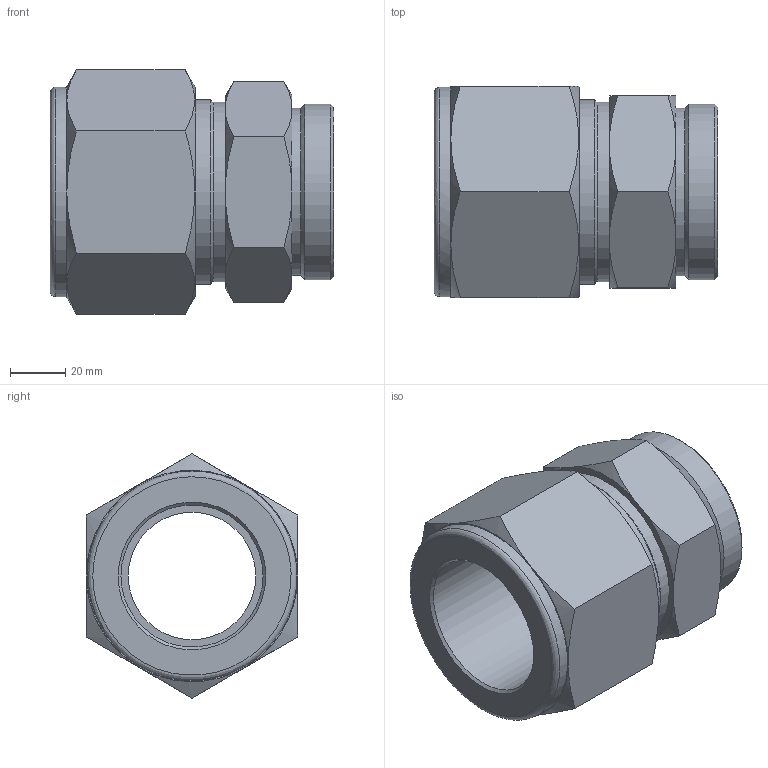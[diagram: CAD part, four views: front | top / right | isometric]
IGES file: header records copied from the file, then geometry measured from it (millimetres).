
Global section: file name: SSMC-32-32U; native system: Autodesk Inventor 2016; preprocessor: unknown; author: DESIGNPC2; date: 20160125.082319; units: millimetre
Bounding box: 102.24 x 76.2 x 87.99 mm (x, y, z)
Volume: 243726.6 mm3; surface area: 47888.9 mm2
Topology: 1 solids, 1 shells, 51 faces, 138 edges, 94 vertices
Faces by surface type: bspline 51
